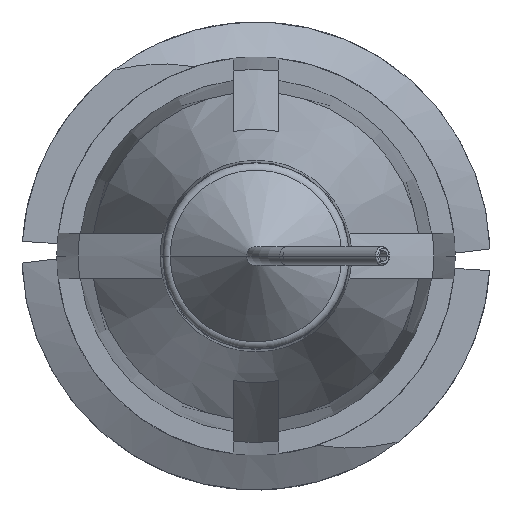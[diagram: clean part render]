
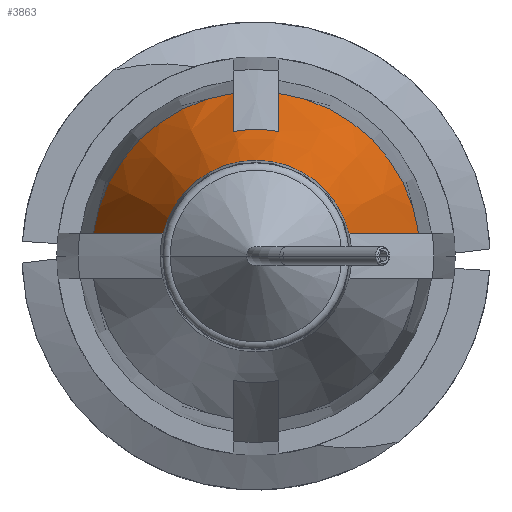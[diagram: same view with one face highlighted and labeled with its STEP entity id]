
A CAD part, front view. The second image highlights one B-rep face of the part: STEP entity #3863.
In plain terms, the highlighted conical face has half-angle 20 degrees and reference radius 2.745 mm.
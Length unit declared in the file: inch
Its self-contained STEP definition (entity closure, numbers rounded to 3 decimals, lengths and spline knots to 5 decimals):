
#6 = EDGE_CURVE ( 'NONE', #766, #1901, #2139, .T. ) ;
#97 = ORIENTED_EDGE ( 'NONE', *, *, #4029, .F. ) ;
#125 = CARTESIAN_POINT ( 'NONE',  ( -0.06119, -0.52985, 0.015 ) ) ;
#346 = ORIENTED_EDGE ( 'NONE', *, *, #4375, .T. ) ;
#456 = ORIENTED_EDGE ( 'NONE', *, *, #6, .F. ) ;
#492 = CARTESIAN_POINT ( 'NONE',  ( -0.015, -0.406, 0.10703 ) ) ;
#518 = CARTESIAN_POINT ( 'NONE',  ( -0.015, -0.42866, 0.0987 ) ) ;
#573 = CARTESIAN_POINT ( 'NONE',  ( -0.015, -0.47395, 0.08198 ) ) ;
#579 = EDGE_CURVE ( 'NONE', #1429, #766, #1929, .T. ) ;
#591 = CARTESIAN_POINT ( 'NONE',  ( -0.015, -0.45131, 0.09036 ) ) ;
#594 = AXIS2_PLACEMENT_3D ( 'NONE', #3768, #891, #1617 ) ;
#698 = CARTESIAN_POINT ( 'NONE',  ( 0.015, -0.42866, 0.0987 ) ) ;
#748 = DIRECTION ( 'NONE',  ( 0., 1., 0. ) ) ;
#766 = VERTEX_POINT ( 'NONE', #1159 ) ;
#786 = CARTESIAN_POINT ( 'NONE',  ( 0.015, -0.45131, 0.09036 ) ) ;
#822 = CARTESIAN_POINT ( 'NONE',  ( -0.10703, -0.406, 0.015 ) ) ;
#891 = DIRECTION ( 'NONE',  ( 0., 1., 0. ) ) ;
#897 = CARTESIAN_POINT ( 'NONE',  ( 0.10703, -0.406, 0.015 ) ) ;
#988 = VERTEX_POINT ( 'NONE', #2840 ) ;
#1020 = VERTEX_POINT ( 'NONE', #1404 ) ;
#1021 = CIRCLE ( 'NONE', #2995, 0.08335 ) ;
#1159 = CARTESIAN_POINT ( 'NONE',  ( -0.10703, -0.406, 0.015 ) ) ;
#1166 = DIRECTION ( 'NONE',  ( 0., 1., 0. ) ) ;
#1274 = FACE_OUTER_BOUND ( 'NONE', #1800, .T. ) ;
#1323 = DIRECTION ( 'NONE',  ( 0., 1., 0. ) ) ;
#1354 = CARTESIAN_POINT ( 'NONE',  ( -0.06119, -0.52985, 0.015 ) ) ;
#1366 = CARTESIAN_POINT ( 'NONE',  ( 0.06119, -0.52985, 0.015 ) ) ;
#1404 = CARTESIAN_POINT ( 'NONE',  ( 0.10703, -0.406, 0.015 ) ) ;
#1429 = VERTEX_POINT ( 'NONE', #1354 ) ;
#1545 = CARTESIAN_POINT ( 'NONE',  ( -0.09185, -0.44732, 0.015 ) ) ;
#1586 = ORIENTED_EDGE ( 'NONE', *, *, #4237, .T. ) ;
#1617 = DIRECTION ( 'NONE',  ( -1., 0., 0. ) ) ;
#1777 = ORIENTED_EDGE ( 'NONE', *, *, #579, .F. ) ;
#1800 = EDGE_LOOP ( 'NONE', ( #1777, #1586, #346, #2243, #2899, #97, #2699, #456 ) ) ;
#1856 = B_SPLINE_CURVE_WITH_KNOTS ( 'NONE', 3,
 ( #492, #518, #591, #573 ),
 .UNSPECIFIED., .F., .F.,
 ( 4, 4 ),
 ( 0.00343, 0.00527 ),
 .UNSPECIFIED. ) ;
#1877 = EDGE_CURVE ( 'NONE', #1901, #1957, #1856, .T. ) ;
#1901 = VERTEX_POINT ( 'NONE', #2332 ) ;
#1929 = B_SPLINE_CURVE_WITH_KNOTS ( 'NONE', 3,
 ( #125, #2301, #1545, #822 ),
 .UNSPECIFIED., .F., .F.,
 ( 4, 4 ),
 ( 0.00282, 0.00617 ),
 .UNSPECIFIED. ) ;
#1957 = VERTEX_POINT ( 'NONE', #4632 ) ;
#2095 = CIRCLE ( 'NONE', #3689, 0.10808 ) ;
#2139 = CIRCLE ( 'NONE', #3571, 0.10808 ) ;
#2171 = DIRECTION ( 'NONE',  ( -1., 0., 0. ) ) ;
#2192 = DIRECTION ( 'NONE',  ( -1., 0., 0. ) ) ;
#2237 = CARTESIAN_POINT ( 'NONE',  ( 0.015, -0.47395, 0.08198 ) ) ;
#2243 = ORIENTED_EDGE ( 'NONE', *, *, #2578, .F. ) ;
#2293 = CARTESIAN_POINT ( 'NONE',  ( 0., -0.406, 0. ) ) ;
#2301 = CARTESIAN_POINT ( 'NONE',  ( -0.07664, -0.48863, 0.015 ) ) ;
#2329 = CARTESIAN_POINT ( 'NONE',  ( 0.06119, -0.52985, 0.015 ) ) ;
#2332 = CARTESIAN_POINT ( 'NONE',  ( -0.015, -0.406, 0.10703 ) ) ;
#2511 = CARTESIAN_POINT ( 'NONE',  ( 0.015, -0.47395, 0.08198 ) ) ;
#2533 = CARTESIAN_POINT ( 'NONE',  ( 0.015, -0.406, 0.10703 ) ) ;
#2578 = EDGE_CURVE ( 'NONE', #988, #1020, #2095, .T. ) ;
#2663 = DIRECTION ( 'NONE',  ( -1., 0., 0. ) ) ;
#2698 = CIRCLE ( 'NONE', #4360, 0.063 ) ;
#2699 = ORIENTED_EDGE ( 'NONE', *, *, #1877, .F. ) ;
#2840 = CARTESIAN_POINT ( 'NONE',  ( 0.015, -0.406, 0.10703 ) ) ;
#2880 = B_SPLINE_CURVE_WITH_KNOTS ( 'NONE', 3,
 ( #2329, #3005, #4108, #897 ),
 .UNSPECIFIED., .F., .F.,
 ( 4, 4 ),
 ( 0.00282, 0.00617 ),
 .UNSPECIFIED. ) ;
#2899 = ORIENTED_EDGE ( 'NONE', *, *, #4136, .F. ) ;
#2927 = CARTESIAN_POINT ( 'NONE',  ( 0., -0.52985, 0. ) ) ;
#2995 = AXIS2_PLACEMENT_3D ( 'NONE', #3532, #1323, #3600 ) ;
#3005 = CARTESIAN_POINT ( 'NONE',  ( 0.07664, -0.48863, 0.015 ) ) ;
#3124 = B_SPLINE_CURVE_WITH_KNOTS ( 'NONE', 3,
 ( #2511, #786, #698, #2533 ),
 .UNSPECIFIED., .F., .F.,
 ( 4, 4 ),
 ( 0.00247, 0.00431 ),
 .UNSPECIFIED. ) ;
#3339 = DIRECTION ( 'NONE',  ( 0., 1., 0. ) ) ;
#3431 = VERTEX_POINT ( 'NONE', #1366 ) ;
#3532 = CARTESIAN_POINT ( 'NONE',  ( 0., -0.47395, 0. ) ) ;
#3571 = AXIS2_PLACEMENT_3D ( 'NONE', #3999, #748, #2192 ) ;
#3600 = DIRECTION ( 'NONE',  ( 1., 0., 0. ) ) ;
#3689 = AXIS2_PLACEMENT_3D ( 'NONE', #2293, #1166, #2663 ) ;
#3768 = CARTESIAN_POINT ( 'NONE',  ( 0., -0.406, 0. ) ) ;
#3831 = CONICAL_SURFACE ( 'NONE', #594, 0.10808, 0.349 ) ;
#3863 = ADVANCED_FACE ( 'NONE', ( #1274 ), #3831, .T. ) ;
#3999 = CARTESIAN_POINT ( 'NONE',  ( 0., -0.406, 0. ) ) ;
#4029 = EDGE_CURVE ( 'NONE', #1957, #4132, #1021, .T. ) ;
#4108 = CARTESIAN_POINT ( 'NONE',  ( 0.09185, -0.44732, 0.015 ) ) ;
#4132 = VERTEX_POINT ( 'NONE', #2237 ) ;
#4136 = EDGE_CURVE ( 'NONE', #4132, #988, #3124, .T. ) ;
#4237 = EDGE_CURVE ( 'NONE', #1429, #3431, #2698, .T. ) ;
#4360 = AXIS2_PLACEMENT_3D ( 'NONE', #2927, #3339, #2171 ) ;
#4375 = EDGE_CURVE ( 'NONE', #3431, #1020, #2880, .T. ) ;
#4632 = CARTESIAN_POINT ( 'NONE',  ( -0.015, -0.47395, 0.08198 ) ) ;
